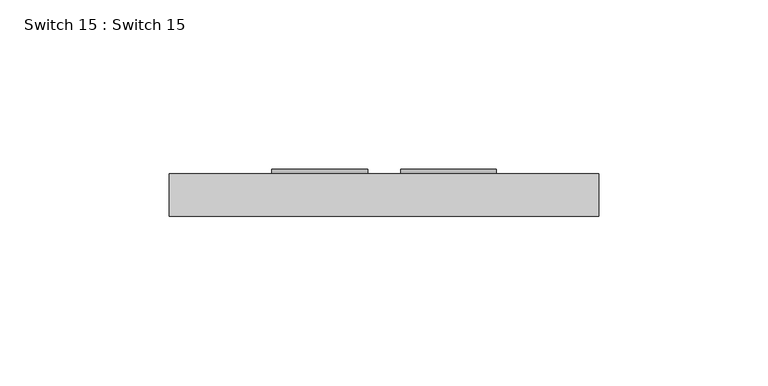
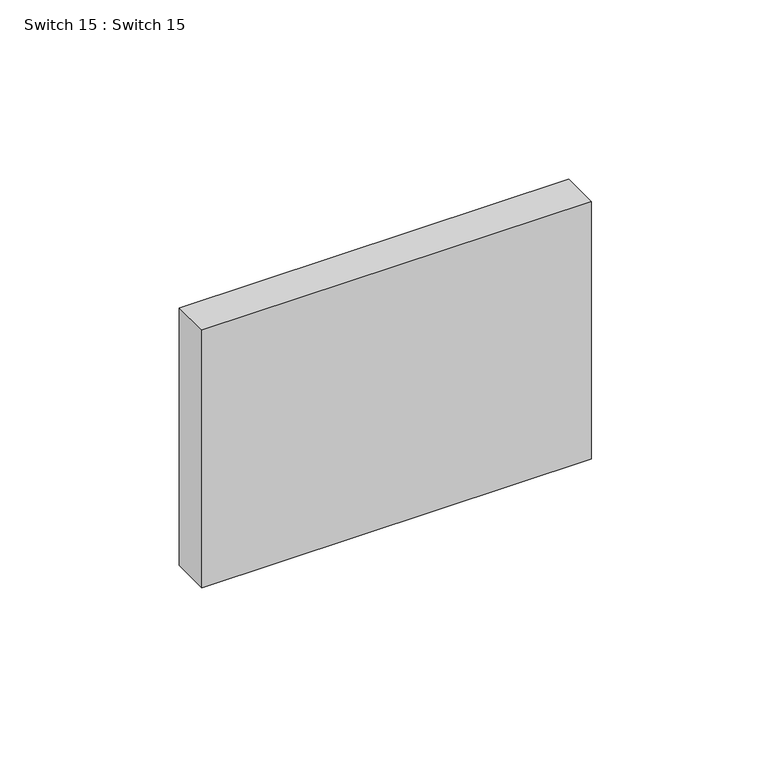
"""IFC4 building model written with IfcOpenShell, lengths in millimetres: proxy geometry, Switch 15 : Switch 15."""

from ifc_helpers import new_model, si_unit, point, frame, frame_2d, origin, origin_with_axes, place, context, project, spatial, polyline, circle_curve, trimmed, segment, composite_curve, outline, extrude, source, transform, mapped, element, save


def switch_15_switch_15_8019c705(model_context):
    return source(origin(), model_context, "Body", "SweptSolid", [
        extrude(outline(composite_curve([segment(trimmed(circle_curve(frame_2d((44.3692374, -20.3338936)), 17.0868414), [point((53.873269, -6.1341213))], [point((53.873269, -34.5336658))], False, "CARTESIAN"), True, "CONTINUOUS"), segment(polyline([(53.873269, -34.5336658), (35.026731, -34.5336658)]), True, "CONTINUOUS"), segment(trimmed(circle_curve(frame_2d((44.5307626, -20.3338936)), 17.0868414), [point((35.026731, -34.5336658))], [point((35.026731, -6.1341213))], False, "CARTESIAN"), True, "CONTINUOUS"), segment(polyline([(35.026731, -6.1341213), (53.873269, -6.1341213)]), True, "CONTINUOUS")], self_intersect=False), holes=[polyline([(40.133304, -28.8465395), (40.133304, -18.2198495), (36.4724008, -18.2198495), (36.4724008, -28.8465395), (40.133304, -28.8465395)]), polyline([(49.1043724, -27.9681154), (52.9288716, -27.9681154), (52.9288716, -18.9673514), (49.1043724, -18.9673514), (49.1043724, -27.9681154)]), composite_curve([segment(polyline([(48.1172156, -7.7395737), (40.9564557, -7.7395737), (40.9564557, -11.1841943)]), True, "CONTINUOUS"), segment(trimmed(circle_curve(frame_2d((44.5368357, -11.1841943)), 3.58038), [point((40.9564557, -11.1841943))], [point((48.1172156, -11.1841943))], True, "CARTESIAN"), True, "CONTINUOUS"), segment(polyline([(48.1172156, -11.1841943), (48.1172156, -7.7395737)]), True, "CONTINUOUS")], self_intersect=False)]), frame((0.0, 12.7, 0.0), z_axis=(0.0, 1.0, 0.0), x_axis=(0.0, 0.0, 1.0)), (0.0, 0.0, 1.0), 1.2829052),
        extrude(outline(composite_curve([segment(trimmed(circle_curve(frame_2d((44.3696372, 17.6961895)), 17.002253), [point((53.8266191, 31.8256658))], [point((53.8266191, 3.5667132))], False, "CARTESIAN"), True, "CONTINUOUS"), segment(polyline([(53.8266191, 3.5667132), (35.0733809, 3.5667132)]), True, "CONTINUOUS"), segment(trimmed(circle_curve(frame_2d((44.5303628, 17.6961895)), 17.002253), [point((35.0733809, 3.5667132))], [point((35.0733809, 31.8256658))], False, "CARTESIAN"), True, "CONTINUOUS"), segment(polyline([(35.0733809, 31.8256658), (53.8266191, 31.8256658)]), True, "CONTINUOUS")], self_intersect=False), holes=[polyline([(40.1546738, 10.1606624), (40.1546738, 19.1371354), (36.5118939, 19.1371354), (36.5118939, 10.1606624), (40.1546738, 10.1606624)]), polyline([(49.081331, 10.0997609), (52.886897, 10.0997609), (52.886897, 19.0559666), (49.081331, 19.0559666), (49.081331, 10.0997609)]), composite_curve([segment(polyline([(48.0990611, 30.2281612), (40.9737505, 30.2281612), (40.9737505, 26.8005933)]), True, "CONTINUOUS"), segment(trimmed(circle_curve(frame_2d((44.5364058, 26.8005933)), 3.5626553), [point((40.9737505, 26.8005933))], [point((48.0990611, 26.8005933))], True, "CARTESIAN"), True, "CONTINUOUS"), segment(polyline([(48.0990611, 26.8005933), (48.0990611, 30.2281612)]), True, "CONTINUOUS")], self_intersect=False)]), frame((0.0, 12.7, 0.0), z_axis=(0.0, 1.0, 0.0), x_axis=(0.0, 0.0, 1.0)), (0.0, 0.0, 1.0), 1.2829052),
        extrude(outline(polyline([(-64.854, 12.7), (62.146, 12.7), (62.146, 0.0), (-64.854, 0.0), (-64.854, 12.7)])), origin_with_axes(), (0.0, 0.0, 1.0), 88.9),
    ])


if __name__ == "__main__":
    model = new_model("IFC4")
    model_context = context("Model", 3, world=origin())
    ifc_project = project(units=[si_unit("LENGTHUNIT", "METRE", prefix="MILLI")], contexts=[model_context])
    site = spatial("IfcSite", under=ifc_project)
    building = spatial("IfcBuilding", under=site)
    placement = place(None, origin())
    switch_15_switch_15_shape = switch_15_switch_15_8019c705(model_context)
    element("IfcBuildingElementProxy", 1, Name="Switch 15 : Switch 15", ObjectType="Switch 15 : Switch 15", at=placement, inside=building, context=model_context, shape_type="MappedRepresentation", body=[
        mapped(switch_15_switch_15_shape, transform((0.0, 0.0, 0.0), x_axis=(1.0, 0.0, 0.0), y_axis=(0.0, 1.0, 0.0), z_axis=(0.0, 0.0, 1.0))),
    ])
    save(model, "model.ifc")
